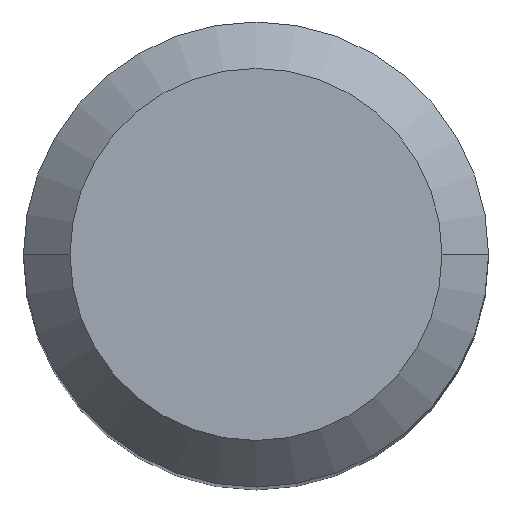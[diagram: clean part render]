
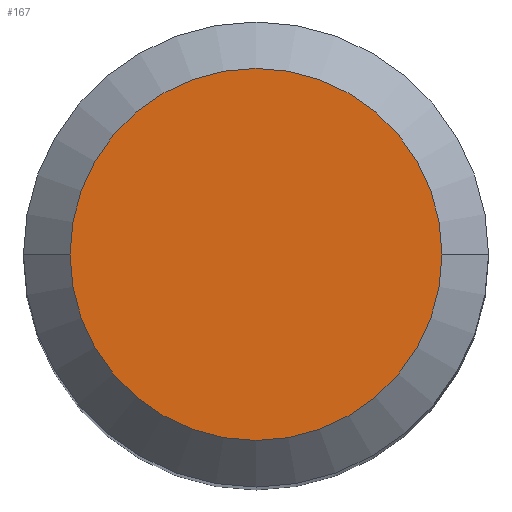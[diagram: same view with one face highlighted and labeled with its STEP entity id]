
A CAD part, top view. The second image highlights one B-rep face of the part: STEP entity #167.
In plain terms, the highlighted planar face has unit normal (0, 0, 1).
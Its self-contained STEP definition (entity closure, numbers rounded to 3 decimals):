
#15 = DIRECTION ( 'NONE',  ( -1., 0., 0. ) ) ;
#46 = AXIS2_PLACEMENT_3D ( 'NONE', #612, #261, #15 ) ;
#58 = CARTESIAN_POINT ( 'NONE',  ( -4.8, 0., 0. ) ) ;
#65 = EDGE_LOOP ( 'NONE', ( #240, #486 ) ) ;
#85 = DIRECTION ( 'NONE',  ( 1., 0., 0. ) ) ;
#130 = PLANE ( 'NONE',  #327 ) ;
#159 = CIRCLE ( 'NONE', #46, 4.8 ) ;
#167 = ADVANCED_FACE ( 'NONE', ( #230 ), #130, .T. ) ;
#177 = EDGE_CURVE ( 'NONE', #306, #471, #483, .T. ) ;
#226 = AXIS2_PLACEMENT_3D ( 'NONE', #614, #277, #457 ) ;
#230 = FACE_OUTER_BOUND ( 'NONE', #65, .T. ) ;
#240 = ORIENTED_EDGE ( 'NONE', *, *, #543, .F. ) ;
#261 = DIRECTION ( 'NONE',  ( 0., 0., -1. ) ) ;
#277 = DIRECTION ( 'NONE',  ( 0., 0., -1. ) ) ;
#306 = VERTEX_POINT ( 'NONE', #325 ) ;
#325 = CARTESIAN_POINT ( 'NONE',  ( 4.8, 0., 0. ) ) ;
#327 = AXIS2_PLACEMENT_3D ( 'NONE', #567, #409, #85 ) ;
#409 = DIRECTION ( 'NONE',  ( 0., 0., 1. ) ) ;
#457 = DIRECTION ( 'NONE',  ( -1., 0., 0. ) ) ;
#471 = VERTEX_POINT ( 'NONE', #58 ) ;
#483 = CIRCLE ( 'NONE', #226, 4.8 ) ;
#486 = ORIENTED_EDGE ( 'NONE', *, *, #177, .F. ) ;
#543 = EDGE_CURVE ( 'NONE', #471, #306, #159, .T. ) ;
#567 = CARTESIAN_POINT ( 'NONE',  ( 0., 4.8, 0. ) ) ;
#612 = CARTESIAN_POINT ( 'NONE',  ( 0., 0., 0. ) ) ;
#614 = CARTESIAN_POINT ( 'NONE',  ( 0., 0., 0. ) ) ;
